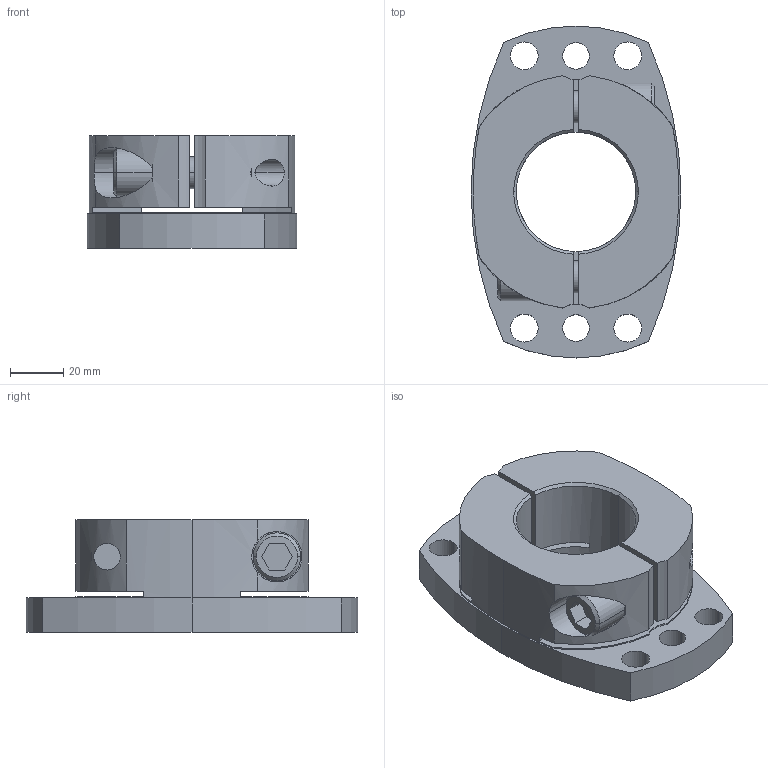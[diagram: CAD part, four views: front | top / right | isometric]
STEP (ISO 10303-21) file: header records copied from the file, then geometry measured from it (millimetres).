
FILE_DESCRIPTION((''),'2;1');
FILE_NAME('SHDB-125B-45.stp','2026-01-28T08:50:42',(''),(''),'AutoCAD STEP 2000i','AutoCAD 2000i',', , ');
FILE_SCHEMA(('CONFIG_CONTROL_DESIGN'));
Length unit declared in the file: millimetre
Products named in the file (2): SHDB-125B-42; 忣兜1
Assembly tree (1 placements, depth 2):
  SHDB-125B-42
    忣兜1
Bounding box: 79 x 125 x 42.5 mm (x, y, z)
Volume: 192787.5 mm3; surface area: 44394.1 mm2
Topology: 1 solids, 1 shells, 108 faces, 286 edges, 188 vertices
Faces by surface type: cylinder 62, plane 36, cone 10
Entity records: 3825 total; most frequent: CARTESIAN_POINT 904, DIRECTION 624, ORIENTED_EDGE 572, EDGE_CURVE 286, AXIS2_PLACEMENT_3D 248, VERTEX_POINT 188, CIRCLE 138, EDGE_LOOP 134
